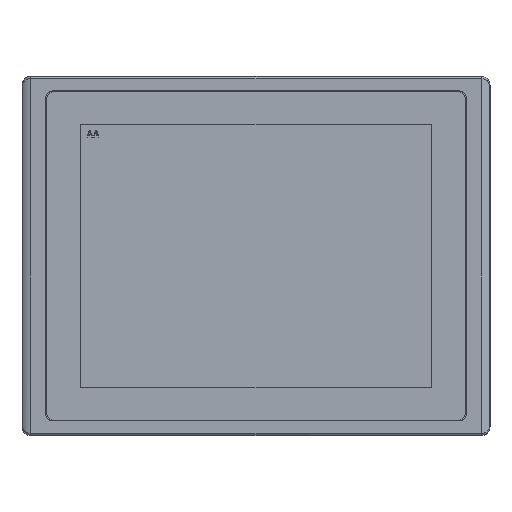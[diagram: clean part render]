
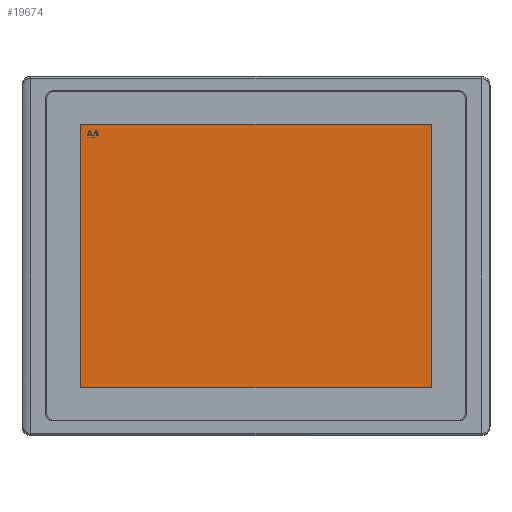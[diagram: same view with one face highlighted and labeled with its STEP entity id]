
A CAD part, top view. The second image highlights one B-rep face of the part: STEP entity #19674.
In plain terms, the highlighted planar face has unit normal (0, 0, 1).
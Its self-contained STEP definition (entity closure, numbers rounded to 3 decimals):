
#3315=DIRECTION('',(0.,1.,0.));
#3316=VECTOR('',#3315,122.5);
#3317=CARTESIAN_POINT('',(-81.5,-61.25,-0.14));
#3318=LINE('',#3317,#3316);
#3319=DIRECTION('',(1.,0.,0.));
#3320=VECTOR('',#3319,163.);
#3321=CARTESIAN_POINT('',(-81.5,61.25,-0.14));
#3322=LINE('',#3321,#3320);
#3323=DIRECTION('',(0.,-1.,0.));
#3324=VECTOR('',#3323,122.5);
#3325=CARTESIAN_POINT('',(81.5,61.25,-0.14));
#3326=LINE('',#3325,#3324);
#3327=DIRECTION('',(-1.,0.,0.));
#3328=VECTOR('',#3327,163.);
#3329=CARTESIAN_POINT('',(81.5,-61.25,-0.14));
#3330=LINE('',#3329,#3328);
#3331=DIRECTION('',(-0.316,0.949,0.));
#3332=VECTOR('',#3331,3.162);
#3333=CARTESIAN_POINT('',(-76.,55.25,-0.14));
#3334=LINE('',#3333,#3332);
#3335=DIRECTION('',(-0.316,-0.949,0.));
#3336=VECTOR('',#3335,3.162);
#3337=CARTESIAN_POINT('',(-77.5,58.25,-0.14));
#3338=LINE('',#3337,#3336);
#3339=DIRECTION('',(0.31,0.951,0.));
#3340=VECTOR('',#3339,0.806);
#3341=CARTESIAN_POINT('',(-78.125,55.25,-0.14));
#3342=LINE('',#3341,#3340);
#3343=DIRECTION('',(0.31,-0.951,0.));
#3344=VECTOR('',#3343,0.806);
#3345=CARTESIAN_POINT('',(-76.625,56.016,-0.14));
#3346=LINE('',#3345,#3344);
#3347=DIRECTION('',(-0.316,0.949,0.));
#3348=VECTOR('',#3347,3.162);
#3349=CARTESIAN_POINT('',(-73.,55.25,-0.14));
#3350=LINE('',#3349,#3348);
#3351=DIRECTION('',(-0.316,-0.949,0.));
#3352=VECTOR('',#3351,3.162);
#3353=CARTESIAN_POINT('',(-74.5,58.25,-0.14));
#3354=LINE('',#3353,#3352);
#3355=DIRECTION('',(0.31,0.951,0.));
#3356=VECTOR('',#3355,0.806);
#3357=CARTESIAN_POINT('',(-75.125,55.25,-0.14));
#3358=LINE('',#3357,#3356);
#3359=DIRECTION('',(0.31,-0.951,0.));
#3360=VECTOR('',#3359,0.806);
#3361=CARTESIAN_POINT('',(-73.625,56.016,-0.14));
#3362=LINE('',#3361,#3360);
#3395=DIRECTION('',(-1.,0.,0.));
#3396=VECTOR('',#3395,0.375);
#3397=CARTESIAN_POINT('',(-76.,55.25,-0.14));
#3398=LINE('',#3397,#3396);
#3411=DIRECTION('',(-1.,0.,0.));
#3412=VECTOR('',#3411,1.25);
#3413=CARTESIAN_POINT('',(-76.625,56.016,-0.14));
#3414=LINE('',#3413,#3412);
#3427=DIRECTION('',(-1.,0.,0.));
#3428=VECTOR('',#3427,0.375);
#3429=CARTESIAN_POINT('',(-78.125,55.25,-0.14));
#3430=LINE('',#3429,#3428);
#3443=DIRECTION('',(1.,0.,0.));
#3444=VECTOR('',#3443,0.5);
#3445=CARTESIAN_POINT('',(-77.5,58.25,-0.14));
#3446=LINE('',#3445,#3444);
#3511=DIRECTION('',(-1.,0.,0.));
#3512=VECTOR('',#3511,0.375);
#3513=CARTESIAN_POINT('',(-73.,55.25,-0.14));
#3514=LINE('',#3513,#3512);
#3527=DIRECTION('',(-1.,0.,0.));
#3528=VECTOR('',#3527,1.25);
#3529=CARTESIAN_POINT('',(-73.625,56.016,-0.14));
#3530=LINE('',#3529,#3528);
#3543=DIRECTION('',(-1.,0.,0.));
#3544=VECTOR('',#3543,0.375);
#3545=CARTESIAN_POINT('',(-75.125,55.25,-0.14));
#3546=LINE('',#3545,#3544);
#3559=DIRECTION('',(1.,0.,0.));
#3560=VECTOR('',#3559,0.5);
#3561=CARTESIAN_POINT('',(-74.5,58.25,-0.14));
#3562=LINE('',#3561,#3560);
#11651=CARTESIAN_POINT('',(-81.5,61.25,-0.14));
#11652=VERTEX_POINT('',#11651);
#11653=CARTESIAN_POINT('',(81.5,61.25,-0.14));
#11654=VERTEX_POINT('',#11653);
#11655=CARTESIAN_POINT('',(81.5,-61.25,-0.14));
#11656=VERTEX_POINT('',#11655);
#11657=CARTESIAN_POINT('',(-81.5,-61.25,-0.14));
#11658=VERTEX_POINT('',#11657);
#11659=CARTESIAN_POINT('',(-76.,55.25,-0.14));
#11660=CARTESIAN_POINT('',(-77.,58.25,-0.14));
#11661=VERTEX_POINT('',#11659);
#11662=VERTEX_POINT('',#11660);
#11663=CARTESIAN_POINT('',(-77.5,58.25,-0.14));
#11664=VERTEX_POINT('',#11663);
#11665=CARTESIAN_POINT('',(-78.5,55.25,-0.14));
#11666=VERTEX_POINT('',#11665);
#11667=CARTESIAN_POINT('',(-78.125,55.25,-0.14));
#11668=VERTEX_POINT('',#11667);
#11669=CARTESIAN_POINT('',(-77.875,56.016,-0.14));
#11670=VERTEX_POINT('',#11669);
#11671=CARTESIAN_POINT('',(-76.625,56.016,-0.14));
#11672=VERTEX_POINT('',#11671);
#11673=CARTESIAN_POINT('',(-76.375,55.25,-0.14));
#11674=VERTEX_POINT('',#11673);
#11681=CARTESIAN_POINT('',(-73.,55.25,-0.14));
#11682=CARTESIAN_POINT('',(-74.,58.25,-0.14));
#11683=VERTEX_POINT('',#11681);
#11684=VERTEX_POINT('',#11682);
#11685=CARTESIAN_POINT('',(-74.5,58.25,-0.14));
#11686=VERTEX_POINT('',#11685);
#11687=CARTESIAN_POINT('',(-75.5,55.25,-0.14));
#11688=VERTEX_POINT('',#11687);
#11689=CARTESIAN_POINT('',(-75.125,55.25,-0.14));
#11690=VERTEX_POINT('',#11689);
#11691=CARTESIAN_POINT('',(-74.875,56.016,-0.14));
#11692=VERTEX_POINT('',#11691);
#11693=CARTESIAN_POINT('',(-73.625,56.016,-0.14));
#11694=VERTEX_POINT('',#11693);
#11695=CARTESIAN_POINT('',(-73.375,55.25,-0.14));
#11696=VERTEX_POINT('',#11695);
#19627=CARTESIAN_POINT('',(0.,0.,-0.14));
#19628=DIRECTION('',(0.,0.,1.));
#19629=DIRECTION('',(1.,0.,0.));
#19630=AXIS2_PLACEMENT_3D('',#19627,#19628,#19629);
#19631=PLANE('',#19630);
#19632=ORIENTED_EDGE('',*,*,#19579,.T.);
#19633=ORIENTED_EDGE('',*,*,#19594,.T.);
#19634=ORIENTED_EDGE('',*,*,#19608,.T.);
#19635=ORIENTED_EDGE('',*,*,#19621,.T.);
#19636=EDGE_LOOP('',(#19632,#19633,#19634,#19635));
#19637=FACE_OUTER_BOUND('',#19636,.F.);
#19639=ORIENTED_EDGE('',*,*,#19638,.T.);
#19641=ORIENTED_EDGE('',*,*,#19640,.F.);
#19643=ORIENTED_EDGE('',*,*,#19642,.T.);
#19645=ORIENTED_EDGE('',*,*,#19644,.F.);
#19647=ORIENTED_EDGE('',*,*,#19646,.T.);
#19649=ORIENTED_EDGE('',*,*,#19648,.F.);
#19651=ORIENTED_EDGE('',*,*,#19650,.T.);
#19653=ORIENTED_EDGE('',*,*,#19652,.F.);
#19654=EDGE_LOOP('',(#19639,#19641,#19643,#19645,#19647,#19649,#19651,#19653));
#19655=FACE_BOUND('',#19654,.F.);
#19657=ORIENTED_EDGE('',*,*,#19656,.T.);
#19659=ORIENTED_EDGE('',*,*,#19658,.F.);
#19661=ORIENTED_EDGE('',*,*,#19660,.T.);
#19663=ORIENTED_EDGE('',*,*,#19662,.F.);
#19665=ORIENTED_EDGE('',*,*,#19664,.T.);
#19667=ORIENTED_EDGE('',*,*,#19666,.F.);
#19669=ORIENTED_EDGE('',*,*,#19668,.T.);
#19671=ORIENTED_EDGE('',*,*,#19670,.F.);
#19672=EDGE_LOOP('',(#19657,#19659,#19661,#19663,#19665,#19667,#19669,#19671));
#19673=FACE_BOUND('',#19672,.F.);
#19579=EDGE_CURVE('',#11658,#11652,#3318,.T.);
#19594=EDGE_CURVE('',#11652,#11654,#3322,.T.);
#19608=EDGE_CURVE('',#11654,#11656,#3326,.T.);
#19621=EDGE_CURVE('',#11656,#11658,#3330,.T.);
#19638=EDGE_CURVE('',#11661,#11662,#3334,.T.);
#19640=EDGE_CURVE('',#11664,#11662,#3446,.T.);
#19642=EDGE_CURVE('',#11664,#11666,#3338,.T.);
#19644=EDGE_CURVE('',#11668,#11666,#3430,.T.);
#19646=EDGE_CURVE('',#11668,#11670,#3342,.T.);
#19648=EDGE_CURVE('',#11672,#11670,#3414,.T.);
#19650=EDGE_CURVE('',#11672,#11674,#3346,.T.);
#19652=EDGE_CURVE('',#11661,#11674,#3398,.T.);
#19656=EDGE_CURVE('',#11683,#11684,#3350,.T.);
#19658=EDGE_CURVE('',#11686,#11684,#3562,.T.);
#19660=EDGE_CURVE('',#11686,#11688,#3354,.T.);
#19662=EDGE_CURVE('',#11690,#11688,#3546,.T.);
#19664=EDGE_CURVE('',#11690,#11692,#3358,.T.);
#19666=EDGE_CURVE('',#11694,#11692,#3530,.T.);
#19668=EDGE_CURVE('',#11694,#11696,#3362,.T.);
#19670=EDGE_CURVE('',#11683,#11696,#3514,.T.);
#19674=ADVANCED_FACE('',(#19637,#19655,#19673),#19631,.T.);
